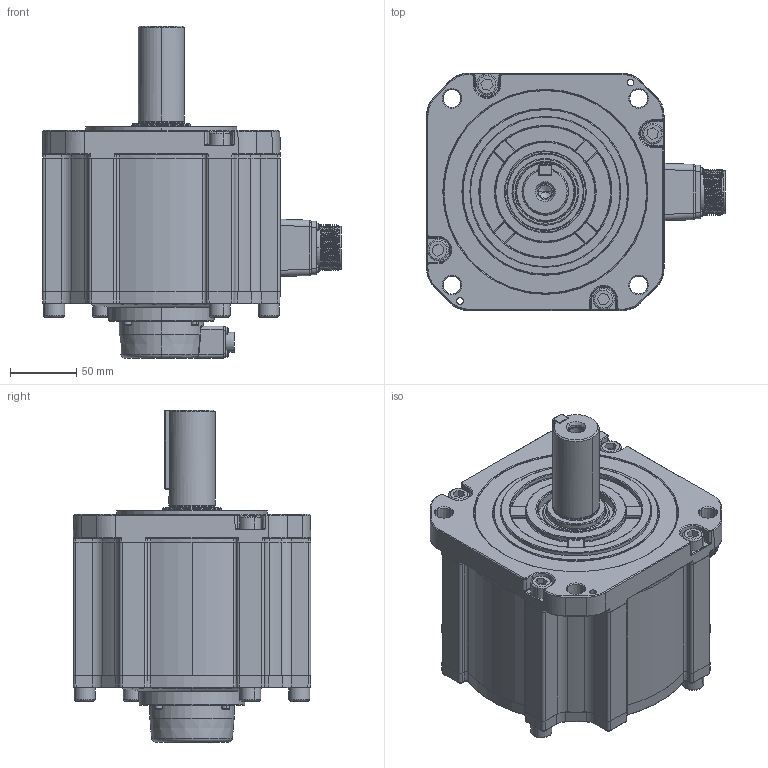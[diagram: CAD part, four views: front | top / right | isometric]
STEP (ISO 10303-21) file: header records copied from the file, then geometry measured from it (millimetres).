
FILE_DESCRIPTION (( 'STEP AP214' ), '1' );
FILE_NAME ('RSA1-M-180-2.9kw.STEP', '2024-08-12T09:22:51', ( '' ), ( '' ), 'SwSTEP 2.0', 'SolidWorks 2020', '' );
FILE_SCHEMA (( 'AUTOMOTIVE_DESIGN' ));
Length unit declared in the file: millimetre
Products named in the file (15): ﾊｮﾗﾖｲﾛﾅﾌﾍｷﾗﾔｼｷﾂﾝｶ､_M3x8; 内六角圆柱头螺钉_M10x30; 180-M-2.9kw-儂褲; 蚐猾_TC45x62x9; す瑩_B10x8x60; 180-翋粣-35粣噤; 坋趼羞攫芛蹟隊_M3x30; 130梓袧綴裔; RSA1-M-180-2.9kw; 内六角圆柱头和平垫圈组合螺钉_M3x16; 180-梓袧綴傷裔; 180-梓袧雄薯脣釱; 4140000005_电机内部编码器线_7x26AWG(0.1m-CMV1-10芯螺纹插座_GACJ3045); 180-瑤脣釱; 180-ヶ傷裔
Assembly tree (30 placements, depth 2):
  RSA1-M-180-2.9kw
    180-M-2.9kw-儂褲
    180-ヶ傷裔
    180-瑤脣釱
    180-梓袧綴傷裔
    130梓袧綴裔
    4140000005_电机内部编码器线_7x26AWG(0.1m-CMV1-10芯螺纹插座_GACJ3045)
    180-梓袧雄薯脣釱
    180-翋粣-35粣噤
    す瑩_B10x8x60
    ﾊｮﾗﾖｲﾛﾅﾌﾍｷﾗﾔｼｷﾂﾝｶ､_M3x8  x4
    坋趼羞攫芛蹟隊_M3x30  x4
    内六角圆柱头螺钉_M10x30  x8
    内六角圆柱头和平垫圈组合螺钉_M3x16  x4
    蚐猾_TC45x62x9
Bounding box: 226.5 x 180 x 251.5 mm (x, y, z)
Volume: 3691621.5 mm3; surface area: 417190 mm2
Topology: 41 solids, 42 shells, 2836 faces, 7026 edges, 4410 vertices
Faces by surface type: plane 1063, cylinder 735, bspline 464, cone 327, torus 207, sphere 40
Entity records: 103873 total; most frequent: CARTESIAN_POINT 37654, ORIENTED_EDGE 12176, DIRECTION 10925, EDGE_CURVE 6088, AXIS2_PLACEMENT_3D 4004, VERTEX_POINT 3845, VECTOR 2917, LINE 2917
